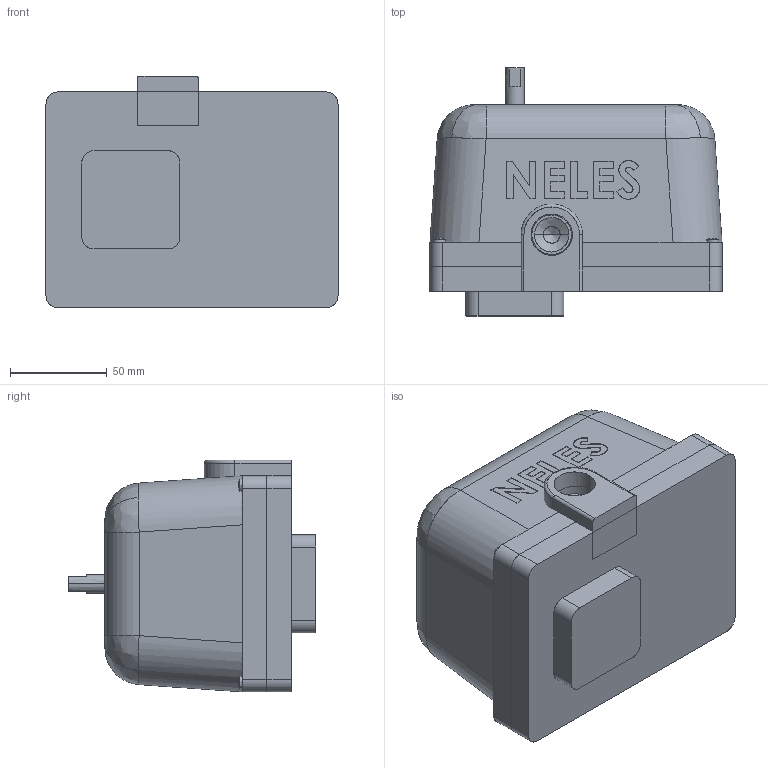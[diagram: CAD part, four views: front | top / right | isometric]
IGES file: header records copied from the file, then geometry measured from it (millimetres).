
Start section: SolidWorks IGES file using analytic representation for surfaces
Global section: file name: W:\Mike Lovejoy\LCR.IGS; native system: SolidWorks 2020; preprocessor: SolidWorks 2020; author: sbulovejmi; date: 240509.091029; units: millimetre
Bounding box: 151.13 x 128.27 x 119.89 mm (x, y, z)
Surface area: 119446.4 mm2 (no closed solid volume)
Topology: 0 solids, 0 shells, 257 faces, 2983 edges, 2981 vertices
Faces by surface type: bspline 204, revolution 53
